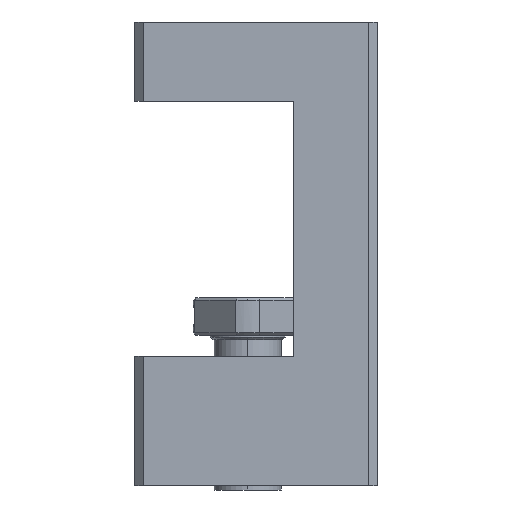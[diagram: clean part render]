
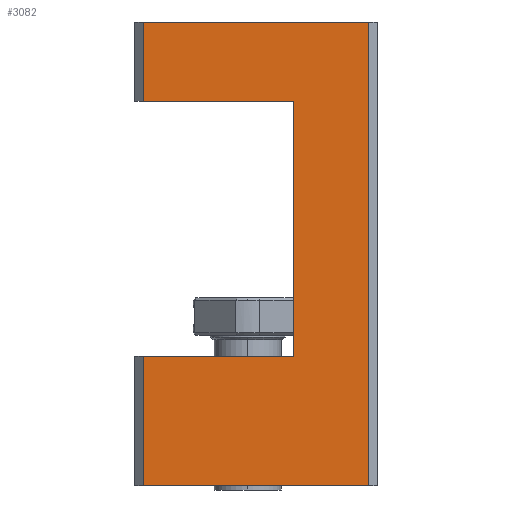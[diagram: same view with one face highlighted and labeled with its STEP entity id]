
A CAD part, left-side view. The second image highlights one B-rep face of the part: STEP entity #3082.
In plain terms, the highlighted planar face has unit normal (-1, 0, 0).
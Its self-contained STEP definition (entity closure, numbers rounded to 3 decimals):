
#3 = EDGE_CURVE ( 'NONE', #2387, #6112, #3304, .T. ) ;
#95 = DIRECTION ( 'NONE',  ( 0., -1., 0. ) ) ;
#241 = DIRECTION ( 'NONE',  ( 0., 0., -1. ) ) ;
#253 = ORIENTED_EDGE ( 'NONE', *, *, #5756, .T. ) ;
#471 = CARTESIAN_POINT ( 'NONE',  ( -17., 13.5, 0. ) ) ;
#578 = LINE ( 'NONE', #5901, #1350 ) ;
#622 = VECTOR ( 'NONE', #2365, 1000. ) ;
#636 = VECTOR ( 'NONE', #2333, 1000. ) ;
#715 = EDGE_CURVE ( 'NONE', #2288, #2532, #1370, .T. ) ;
#820 = VERTEX_POINT ( 'NONE', #5494 ) ;
#888 = CARTESIAN_POINT ( 'NONE',  ( -17., -5.5, 15.5 ) ) ;
#961 = CARTESIAN_POINT ( 'NONE',  ( -17., 13.5, 55.5 ) ) ;
#1140 = ORIENTED_EDGE ( 'NONE', *, *, #4679, .F. ) ;
#1203 = EDGE_CURVE ( 'NONE', #2387, #5958, #2430, .T. ) ;
#1225 = ORIENTED_EDGE ( 'NONE', *, *, #1203, .F. ) ;
#1254 = CARTESIAN_POINT ( 'NONE',  ( -17., 13.5, 55.5 ) ) ;
#1350 = VECTOR ( 'NONE', #95, 1000. ) ;
#1370 = LINE ( 'NONE', #2902, #4831 ) ;
#1424 = EDGE_CURVE ( 'NONE', #6112, #820, #6124, .T. ) ;
#1436 = DIRECTION ( 'NONE',  ( 0., 0., 1. ) ) ;
#1753 = CARTESIAN_POINT ( 'NONE',  ( -17., 12.5, 55.5 ) ) ;
#1761 = DIRECTION ( 'NONE',  ( 0., 1., 0. ) ) ;
#1776 = CARTESIAN_POINT ( 'NONE',  ( -17., 12.5, 55.5 ) ) ;
#1780 = CARTESIAN_POINT ( 'NONE',  ( -17., -5.5, 46. ) ) ;
#1952 = ORIENTED_EDGE ( 'NONE', *, *, #715, .T. ) ;
#2178 = FACE_OUTER_BOUND ( 'NONE', #5646, .T. ) ;
#2288 = VERTEX_POINT ( 'NONE', #1776 ) ;
#2333 = DIRECTION ( 'NONE',  ( 0., -1., 0. ) ) ;
#2365 = DIRECTION ( 'NONE',  ( 0., 0., 1. ) ) ;
#2387 = VERTEX_POINT ( 'NONE', #888 ) ;
#2398 = VECTOR ( 'NONE', #1436, 1000. ) ;
#2425 = DIRECTION ( 'NONE',  ( 0., 0., -1. ) ) ;
#2430 = LINE ( 'NONE', #5813, #2398 ) ;
#2532 = VERTEX_POINT ( 'NONE', #5920 ) ;
#2573 = VECTOR ( 'NONE', #1761, 1000. ) ;
#2856 = DIRECTION ( 'NONE',  ( 0., -1., 0. ) ) ;
#2902 = CARTESIAN_POINT ( 'NONE',  ( -17., 12.5, 55.5 ) ) ;
#2910 = VERTEX_POINT ( 'NONE', #4352 ) ;
#3082 = ADVANCED_FACE ( 'NONE', ( #2178 ), #3642, .F. ) ;
#3170 = CARTESIAN_POINT ( 'NONE',  ( -17., 13.5, 15.5 ) ) ;
#3304 = LINE ( 'NONE', #3170, #2573 ) ;
#3356 = LINE ( 'NONE', #3888, #622 ) ;
#3526 = CARTESIAN_POINT ( 'NONE',  ( -17., -14.5, 0. ) ) ;
#3642 = PLANE ( 'NONE',  #5642 ) ;
#3760 = CARTESIAN_POINT ( 'NONE',  ( -17., 12.5, 15.5 ) ) ;
#3888 = CARTESIAN_POINT ( 'NONE',  ( -17., -14.5, 55.5 ) ) ;
#3905 = EDGE_CURVE ( 'NONE', #820, #5062, #4840, .T. ) ;
#4207 = ORIENTED_EDGE ( 'NONE', *, *, #4756, .T. ) ;
#4352 = CARTESIAN_POINT ( 'NONE',  ( -17., -14.5, 55.5 ) ) ;
#4427 = ORIENTED_EDGE ( 'NONE', *, *, #1424, .T. ) ;
#4484 = VECTOR ( 'NONE', #2856, 1000. ) ;
#4679 = EDGE_CURVE ( 'NONE', #2288, #2910, #4760, .T. ) ;
#4750 = ORIENTED_EDGE ( 'NONE', *, *, #3905, .T. ) ;
#4756 = EDGE_CURVE ( 'NONE', #2532, #5958, #578, .T. ) ;
#4760 = LINE ( 'NONE', #961, #636 ) ;
#4831 = VECTOR ( 'NONE', #2425, 1000. ) ;
#4836 = VECTOR ( 'NONE', #5593, 1000. ) ;
#4840 = LINE ( 'NONE', #471, #4484 ) ;
#5059 = DIRECTION ( 'NONE',  ( 1., 0., 0. ) ) ;
#5062 = VERTEX_POINT ( 'NONE', #3526 ) ;
#5494 = CARTESIAN_POINT ( 'NONE',  ( -17., 12.5, 0. ) ) ;
#5573 = ORIENTED_EDGE ( 'NONE', *, *, #3, .T. ) ;
#5593 = DIRECTION ( 'NONE',  ( 0., 0., -1. ) ) ;
#5642 = AXIS2_PLACEMENT_3D ( 'NONE', #1254, #5059, #241 ) ;
#5646 = EDGE_LOOP ( 'NONE', ( #4750, #253, #1140, #1952, #4207, #1225, #5573, #4427 ) ) ;
#5756 = EDGE_CURVE ( 'NONE', #5062, #2910, #3356, .T. ) ;
#5813 = CARTESIAN_POINT ( 'NONE',  ( -17., -5.5, 55.5 ) ) ;
#5901 = CARTESIAN_POINT ( 'NONE',  ( -17., 13.5, 46. ) ) ;
#5920 = CARTESIAN_POINT ( 'NONE',  ( -17., 12.5, 46. ) ) ;
#5958 = VERTEX_POINT ( 'NONE', #1780 ) ;
#6112 = VERTEX_POINT ( 'NONE', #3760 ) ;
#6124 = LINE ( 'NONE', #1753, #4836 ) ;
